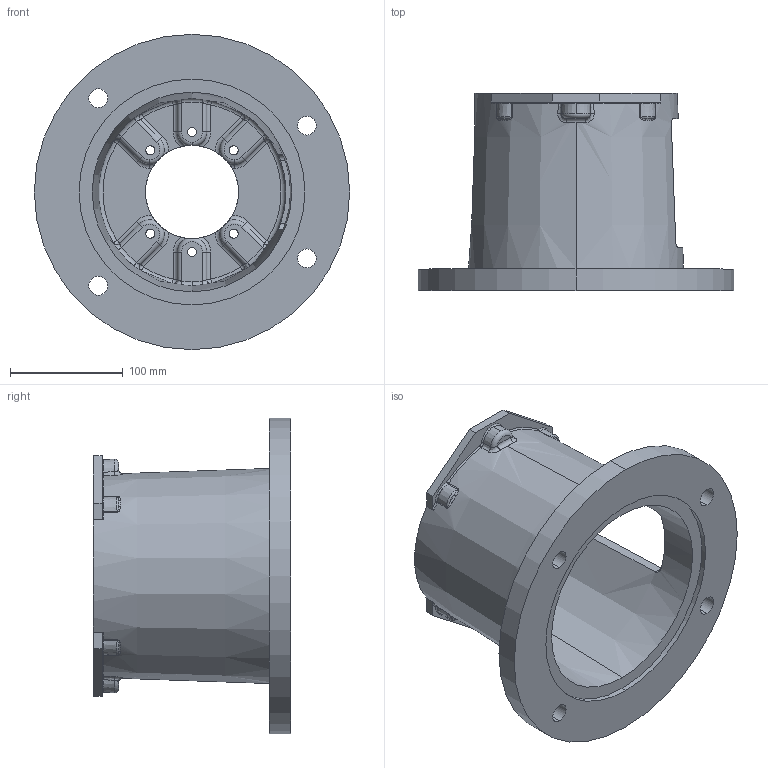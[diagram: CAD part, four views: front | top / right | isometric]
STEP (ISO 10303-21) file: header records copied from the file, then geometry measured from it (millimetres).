
FILE_DESCRIPTION (( 'STEP AP203' ), '1' );
FILE_NAME ('E787682A.STEP', '2014-11-04T13:44:04', ( '' ), ( '' ), 'SwSTEP 2.0', 'SolidWorks 2014', '' );
FILE_SCHEMA (( 'CONFIG_CONTROL_DESIGN' ));
Length unit declared in the file: inch
Products named in the file (1): E787682A
Bounding box: 279.4 x 174.75 x 279.4 mm (x, y, z)
Volume: 1490590.3 mm3; surface area: 309464.5 mm2
Topology: 1 solids, 1 shells, 341 faces, 860 edges, 511 vertices
Faces by surface type: torus 105, cylinder 78, bspline 60, plane 50, sphere 24, cone 24
Entity records: 13823 total; most frequent: CARTESIAN_POINT 5843, DIRECTION 1708, ORIENTED_EDGE 1696, EDGE_CURVE 848, AXIS2_PLACEMENT_3D 778, VERTEX_POINT 511, CIRCLE 496, EDGE_LOOP 367
